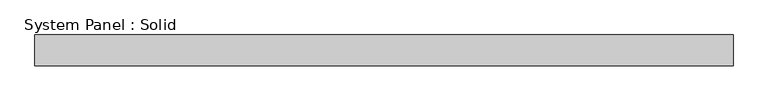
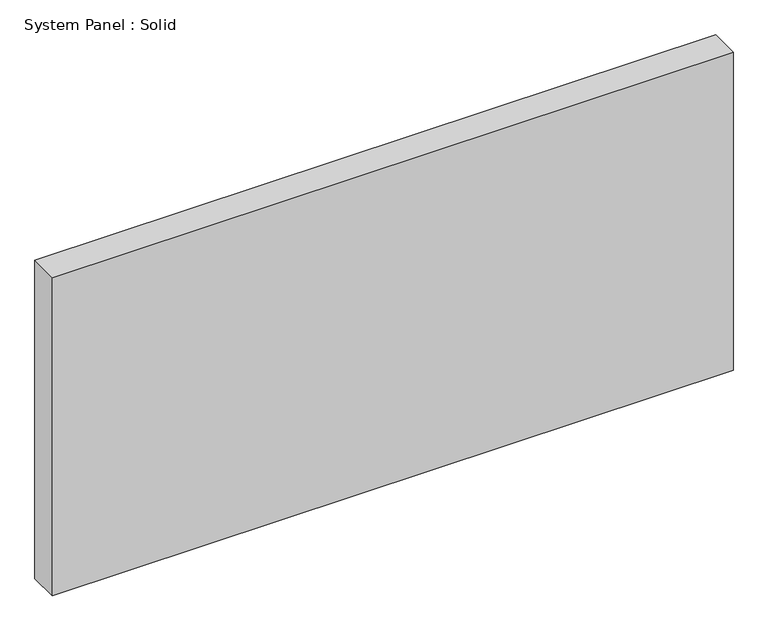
"""IFC4 building model written with IfcOpenShell, lengths in millimetres: plate geometry, System Panel : Solid."""

import ifcopenshell
import ifcopenshell.guid

model = None  # the IFC model being written
_history = None  # IfcOwnerHistory: only IFC2X3 demands one
_inside = {}  # id of a spatial element -> (the spatial element, [elements in it])
_under = {}  # id of a project, library or spatial element -> (it, [spatial elements below it])
_declared = {}  # id of a project -> (the project, [libraries it declares])
_typed = {}  # id of a type object -> (the type object, [elements of that type])
_made_of = {}  # id of a material, layer set ... -> (it, [elements and type objects made of it])


def new_model(schema):
    """Start an empty IFC model of exactly this schema.

    Asked for "IFC4X3", IfcOpenShell would pick the latest addendum, in which some entities
    have other attributes; the version numbers below select the first issue.
    IFC2X3 requires an IfcOwnerHistory on every rooted entity: one is made here for all.
    """
    global model, _history
    if schema == "IFC4X3":
        model = ifcopenshell.file(schema_version=(4, 3, 0, 0))
    else:
        model = ifcopenshell.file(schema=schema)
    _inside.clear()
    _under.clear()
    _declared.clear()
    _typed.clear()
    _made_of.clear()
    _history = None
    if model.schema == "IFC2X3":
        org = make("IfcOrganization", Name="unknown")
        user = make(
            "IfcPersonAndOrganization",
            ThePerson=make("IfcPerson", FamilyName="unknown"),
            TheOrganization=org,
        )
        app = make(
            "IfcApplication",
            ApplicationDeveloper=org,
            Version="unknown",
            ApplicationFullName="unknown",
            ApplicationIdentifier="unknown",
        )
        _history = make(
            "IfcOwnerHistory",
            OwningUser=user,
            OwningApplication=app,
            ChangeAction="ADDED",
            CreationDate=0,
        )
    return model


def make(cls, **values):
    """One entity of the class cls with the attributes given. An attribute that is None is left unset."""
    return model.create_entity(
        cls, **{name: value for name, value in values.items() if value is not None}
    )


def rooted(cls, **values):
    """An entity with a GlobalId (a new one), such as an element, a storey or a relation."""
    return make(cls, GlobalId=ifcopenshell.guid.new(), OwnerHistory=_history, **values)


def si_unit(unit_type, name, prefix=None):
    """IfcSIUnit, for example si_unit("LENGTHUNIT", "METRE", prefix="MILLI")."""
    return make("IfcSIUnit", UnitType=unit_type, Prefix=prefix, Name=name)


def assignment(units):
    """IfcUnitAssignment: the units of a project."""
    return None if units is None else make("IfcUnitAssignment", Units=units)


def point(xyz):
    """IfcCartesianPoint."""
    return None if xyz is None else make("IfcCartesianPoint", Coordinates=xyz)


def direction(xyz):
    """IfcDirection."""
    return None if xyz is None else make("IfcDirection", DirectionRatios=xyz)


def frame(location, z_axis=None, x_axis=None):
    """IfcAxis2Placement3D, a coordinate frame: its origin and axes. An axis left out is left unset."""
    return make(
        "IfcAxis2Placement3D",
        Location=point(location),
        Axis=direction(z_axis),
        RefDirection=direction(x_axis),
    )


def origin():
    """The frame at (0, 0, 0) with its axes left unset."""
    return frame((0.0, 0.0, 0.0))


def origin_with_axes():
    """The frame at (0, 0, 0) with the z axis (0, 0, 1) and the x axis (1, 0, 0) written out."""
    return frame((0.0, 0.0, 0.0), z_axis=(0.0, 0.0, 1.0), x_axis=(1.0, 0.0, 0.0))


def place(relative_to, where):
    """IfcLocalPlacement: puts the frame where relative to a parent placement (None: the world)."""
    return make(
        "IfcLocalPlacement", PlacementRelTo=relative_to, RelativePlacement=where
    )


def context(
    kind, dimensions, precision=None, world=None, true_north=None, identifier=None
):
    """IfcGeometricRepresentationContext, for example the 3D "Model" context."""
    return make(
        "IfcGeometricRepresentationContext",
        ContextIdentifier=identifier,
        ContextType=kind,
        CoordinateSpaceDimension=dimensions,
        Precision=precision,
        WorldCoordinateSystem=world,
        TrueNorth=true_north,
    )


def project(units=None, contexts=None):
    """IfcProject with its units and contexts."""
    return rooted(
        "IfcProject",
        Name="project",
        RepresentationContexts=contexts,
        UnitsInContext=assignment(units),
    )


def spatial(cls, under=None, at=None, **own):
    """A site, building, storey or space (cls), placed at a placement, below another one or the project."""
    s = rooted(cls, ObjectPlacement=at, **own)
    if under is not None:
        _under.setdefault(under.id(), (under, []))[1].append(s)
    return s


def polyline(points):
    """IfcPolyline through the points."""
    return make("IfcPolyline", Points=[point(p) for p in points])


def outline(outer, holes=None, kind="AREA"):
    """IfcArbitraryClosedProfileDef: a profile drawn as a closed curve; with holes, ...WithVoids."""
    if holes is None:
        return make("IfcArbitraryClosedProfileDef", ProfileType=kind, OuterCurve=outer)
    return make(
        "IfcArbitraryProfileDefWithVoids",
        ProfileType=kind,
        OuterCurve=outer,
        InnerCurves=holes,
    )


def extrude(swept, where, along, depth):
    """IfcExtrudedAreaSolid: the profile swept, set in the frame where, extruded along a direction by depth."""
    return make(
        "IfcExtrudedAreaSolid",
        SweptArea=swept,
        Position=where,
        ExtrudedDirection=direction(along),
        Depth=depth,
    )


def shape(context_of_items, identifier, shape_type, items):
    """IfcShapeRepresentation: the items that make up one representation, for example the "Body"."""
    return make(
        "IfcShapeRepresentation",
        ContextOfItems=context_of_items,
        RepresentationIdentifier=identifier,
        RepresentationType=shape_type,
        Items=items,
    )


def source(mapping_origin, context_of_items, identifier, shape_type, items):
    """IfcRepresentationMap: a shape defined once, which mapped items show again and again."""
    return make(
        "IfcRepresentationMap",
        MappingOrigin=mapping_origin,
        MappedRepresentation=shape(context_of_items, identifier, shape_type, items),
    )


def transform(
    local_origin,
    x_axis=None,
    y_axis=None,
    z_axis=None,
    scale=None,
    scale2=None,
    scale3=None,
    uniform=True,
):
    """IfcCartesianTransformationOperator3D, or its non-uniform kind. x_axis, y_axis, z_axis: its Axis1, 2, 3."""
    if uniform:
        return make(
            "IfcCartesianTransformationOperator3D",
            Axis1=direction(x_axis),
            Axis2=direction(y_axis),
            LocalOrigin=point(local_origin),
            Scale=scale,
            Axis3=direction(z_axis),
        )
    return make(
        "IfcCartesianTransformationOperator3DnonUniform",
        Axis1=direction(x_axis),
        Axis2=direction(y_axis),
        LocalOrigin=point(local_origin),
        Scale=scale,
        Axis3=direction(z_axis),
        Scale2=scale2,
        Scale3=scale3,
    )


def mapped(mapping_source, mapping_target):
    """IfcMappedItem: shows the shape of a source again, moved by a transform."""
    return make(
        "IfcMappedItem", MappingSource=mapping_source, MappingTarget=mapping_target
    )


def made_of(thing, what):
    """Note that an element or type object is made of a material, layer set ...; save() writes the relation."""
    if what is not None:
        _made_of.setdefault(what.id(), (what, []))[1].append(thing)
    return thing


def element(
    cls,
    number,
    at=None,
    inside=None,
    cuts=None,
    type_object=None,
    material=None,
    context=None,
    identifier="Body",
    shape_type=None,
    held_by="IfcProductDefinitionShape",
    body=None,
    shapes=None,
    **own,
):
    """One element of the class cls, such as IfcWall. Its Tag is "e" and its number.

    at: its placement. inside: the storey or other place that contains it. cuts: it is an
    opening in that element (IfcRelVoidsElement). A single representation is given by context,
    identifier, shape_type and body (its items); several are given by shapes. held_by: the class
    of the entity that holds the representations. save() writes the other relations.
    """
    e = rooted(cls, Tag="e%d" % number, ObjectPlacement=at, **own)
    if body is not None:
        shapes = [shape(context, identifier, shape_type, body)]
    if shapes is not None:
        e.Representation = make(held_by, Representations=shapes)
    if inside is not None:
        _inside.setdefault(inside.id(), (inside, []))[1].append(e)
    if cuts is not None:
        rooted(
            "IfcRelVoidsElement", RelatingBuildingElement=cuts, RelatedOpeningElement=e
        )
    if type_object is not None:
        _typed.setdefault(type_object.id(), (type_object, []))[1].append(e)
    return made_of(e, material)


def aggregate(whole, parts):
    """IfcRelAggregates: a whole, such as a stair, and the parts it consists of."""
    return rooted("IfcRelAggregates", RelatingObject=whole, RelatedObjects=parts)


def save(model, path):
    """Write the relations noted so far, then the file.

    IfcRelAggregates (storeys below a building ...), IfcRelContainedInSpatialStructure (elements
    in a storey), IfcRelDefinesByType, IfcRelAssociatesMaterial and IfcRelDeclares: one each for
    every whole, place, type object, material and project.
    """
    for whole, parts in _under.values():
        aggregate(whole, parts)
    for where, things in _inside.values():
        rooted(
            "IfcRelContainedInSpatialStructure",
            RelatedElements=things,
            RelatingStructure=where,
        )
    for kind, things in _typed.values():
        rooted("IfcRelDefinesByType", RelatedObjects=things, RelatingType=kind)
    for what, things in _made_of.values():
        rooted("IfcRelAssociatesMaterial", RelatedObjects=things, RelatingMaterial=what)
    for by, libraries in _declared.values():
        rooted("IfcRelDeclares", RelatingContext=by, RelatedDefinitions=libraries)
    model.write(path)


def system_panel_solid_e04ca811(model_context):
    return source(origin(), model_context, "Body", "SweptSolid", [
        extrude(outline(polyline([(723.1944444, -19.05), (-723.1944444, -19.05), (-723.1944444, 44.45), (723.1944444, 44.45), (723.1944444, -19.05)])), origin_with_axes(), (0.0, 0.0, 1.0), 714.375),
    ])


if __name__ == "__main__":
    model = new_model("IFC4")
    model_context = context("Model", 3, world=origin())
    ifc_project = project(units=[si_unit("LENGTHUNIT", "METRE", prefix="MILLI")], contexts=[model_context])
    site = spatial("IfcSite", under=ifc_project)
    building = spatial("IfcBuilding", under=site)
    placement = place(None, origin())
    system_panel_solid_shape = system_panel_solid_e04ca811(model_context)
    element("IfcPlate", 1, ObjectType="System Panel : Solid", at=placement, inside=building, context=model_context, shape_type="MappedRepresentation", body=[
        mapped(system_panel_solid_shape, transform((0.0, 0.0, 0.0), x_axis=(1.0, 0.0, 0.0), y_axis=(0.0, 1.0, 0.0), z_axis=(0.0, 0.0, 1.0))),
    ])
    save(model, "model.ifc")
